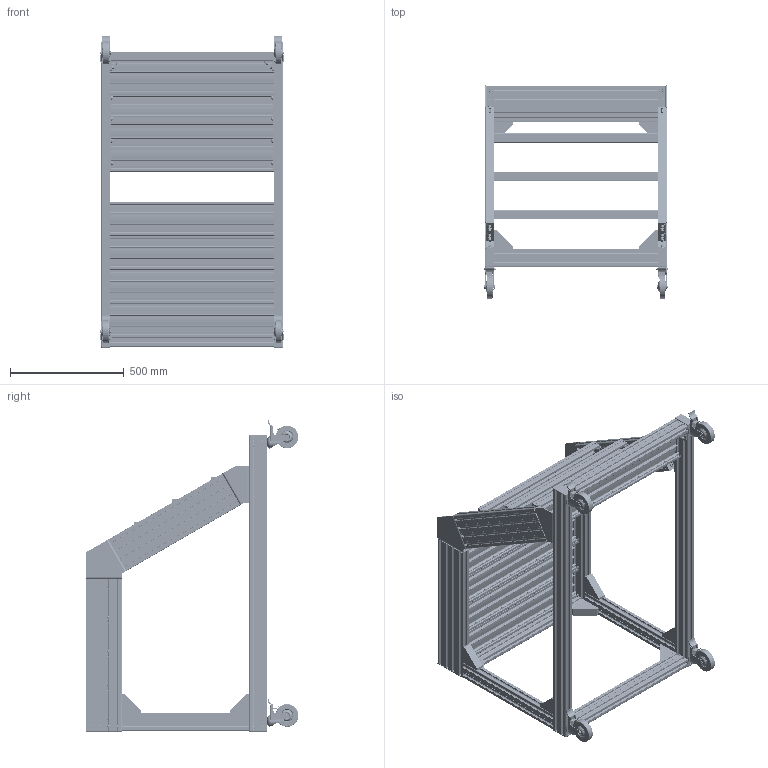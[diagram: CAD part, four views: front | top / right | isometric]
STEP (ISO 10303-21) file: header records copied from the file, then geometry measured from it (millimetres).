
FILE_DESCRIPTION (( 'STEP AP214' ), '1' );
FILE_NAME ('Ïîäêàòíàÿ ïîäñòàâêà.STEP', '2023-10-16T12:26:09', ( '' ), ( '' ), 'SwSTEP 2.0', 'SolidWorks 2022', '' );
FILE_SCHEMA (( 'AUTOMOTIVE_DESIGN' ));
Length unit declared in the file: millimetre
Products named in the file (37): Шайба увеличенная ГОСТ 6958-78_М8 ГОСТ 6958-78; 5; SPFS40150; 4016060; 1059; 4036; 5031; 4079; RSI935100М10; OB-4080S10 Профиль 40х80 мм. Паз 10 мм (Анодированный)_L=1300 мм; Шайба 11371-68_8; Гайка М8 DIN 6923; Шайба 8.65Г ГОСТ 6402-70; Подкатная подставка; 3; OB-40160-S10 Профиль 40х160 мм. Паз 10 мм (Анодированный)_L=579 мм; 2А11.А41А.01; OB-40160-S10 Профиль 40х160 мм. Паз 10 мм (Анодированный)_L=720 мм; Винт полусфера ISO 7380_М8х16; 6; 4016030; ST-40150_L=710 мм; Винт с внутренним шестигранником ISO 4762_М8х25; OB-4080S10 Профиль 40х80 мм. Паз 10 мм (Анодированный)_L=720 мм; 2; 4; OB-4080S10 Профиль 40х80 мм. Паз 10 мм (Анодированный)_L=560 мм; 1; Деталь1^Подкатная подставка; OB-40160-S10 Профиль 40х160 мм. Паз 10 мм (Анодированный)_L=670 мм; ST-40150_L=720 мм; 1059cap; Винт-пот.-шестигр.-ГОСТ-Р-ИСО-10642-2012-DIN-7991_М8x25; 8213 - сталь 8 мм; Винт полусфера ISO 7380_М8х20
Assembly tree (331 placements, depth 3):
  Подкатная подставка
    OB-40160-S10 Профиль 40х160 мм. Паз 10 мм (Анодированный)_L=670 мм
    OB-40160-S10 Профиль 40х160 мм. Паз 10 мм (Анодированный)_L=720 мм
    OB-40160-S10 Профиль 40х160 мм. Паз 10 мм (Анодированный)_L=670 мм
    OB-4080S10 Профиль 40х80 мм. Паз 10 мм (Анодированный)_L=560 мм  x2
    OB-4080S10 Профиль 40х80 мм. Паз 10 мм (Анодированный)_L=1300 мм
    OB-4080S10 Профиль 40х80 мм. Паз 10 мм (Анодированный)_L=1300 мм
    4016030  x2
    4016060  x2
    OB-40160-S10 Профиль 40х160 мм. Паз 10 мм (Анодированный)_L=579 мм  x2
    OB-4080S10 Профиль 40х80 мм. Паз 10 мм (Анодированный)_L=720 мм  x2
    SPFS40150  x6
    ST-40150_L=710 мм  x3
    Винт-пот.-шестигр.-ГОСТ-Р-ИСО-10642-2012-DIN-7991_М8x25  x16
    ST-40150_L=720 мм  x5
    Шайба увеличенная ГОСТ 6958-78_М8 ГОСТ 6958-78  x24
    Шайба 8.65Г ГОСТ 6402-70  x36
    Винт полусфера ISO 7380_М8х16  x36
    4079  x2
    5031  x46
    Гайка М8 DIN 6923  x44
    1059  x8
    1059cap  x8
    Винт полусфера ISO 7380_М8х20  x12
    Шайба 11371-68_8  x12
    2А11.А41А.01  x16
    Винт с внутренним шестигранником ISO 4762_М8х25  x24
    4036  x4
    8213 - сталь 8 мм  x2
    RSI935100М10  x4
      1
      2
      3
      4
      5
      6
  Деталь1^Подкатная подставка
Bounding box: 813.95 x 936.88 x 1372.05 mm (x, y, z)
Volume: 19600781.9 mm3; surface area: 13815860.9 mm2
Topology: 877 solids, 877 shells, 35286 faces, 90150 edges, 54634 vertices
Faces by surface type: plane 14512, cylinder 11926, bspline 4104, sphere 1964, torus 1576, cone 1204
Entity records: 200291 total; most frequent: CARTESIAN_POINT 52573, ORIENTED_EDGE 31370, DIRECTION 28672, EDGE_CURVE 15685, VECTOR 10536, LINE 10536, VERTEX_POINT 10249, AXIS2_PLACEMENT_3D 9068
